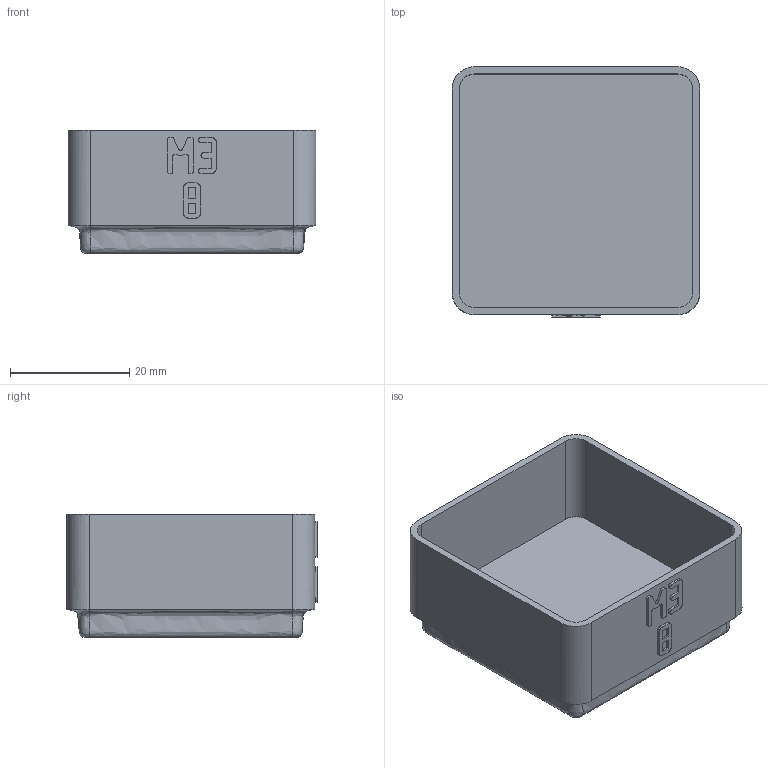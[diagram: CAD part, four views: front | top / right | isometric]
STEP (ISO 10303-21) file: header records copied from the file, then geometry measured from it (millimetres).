
FILE_DESCRIPTION(('Open CASCADE Model'),'2;1');
FILE_NAME('Open CASCADE Shape Model','2026-11-03T15:27:32',('Author'),( 'Open CASCADE'),'Open CASCADE STEP processor 8.0','build123d', 'Unknown');
FILE_SCHEMA(('AUTOMOTIVE_DESIGN { 1 0 10303 214 1 1 1 1 }'));
Length unit declared in the file: millimetre
Products named in the file (1): COMPOUND
Bounding box: 41.5 x 41.9 x 20.75 mm (x, y, z)
Volume: 9641.5 mm3; surface area: 8968.4 mm2
Topology: 1 solids, 1 shells, 334 faces, 970 edges, 644 vertices
Faces by surface type: plane 318, bspline 8, cylinder 8
Entity records: 23226 total; most frequent: CARTESIAN_POINT 5081, DIRECTION 2916, LINE 2234, VECTOR 2234, ORIENTED_EDGE 1940, PCURVE 1940, DEFINITIONAL_REPRESENTATION 1940, EDGE_CURVE 970
